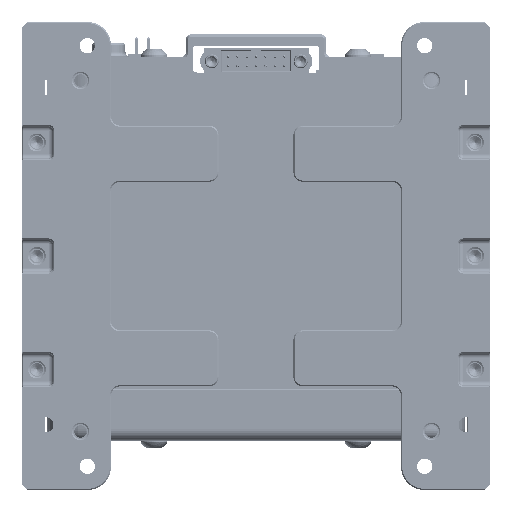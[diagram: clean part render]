
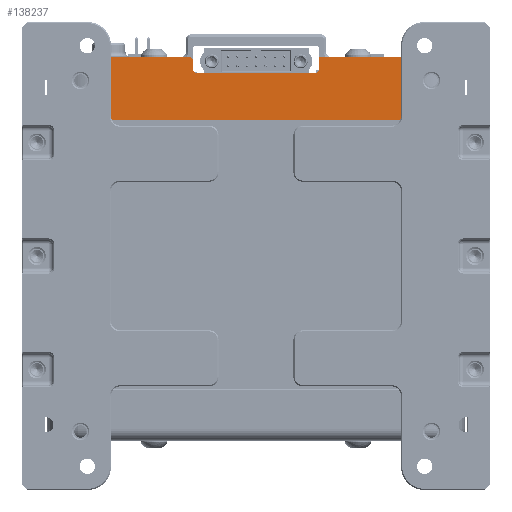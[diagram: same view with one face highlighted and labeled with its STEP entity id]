
A CAD part, left-side view. The second image highlights one B-rep face of the part: STEP entity #138237.
In plain terms, the highlighted planar face has unit normal (-1, 0, 0).
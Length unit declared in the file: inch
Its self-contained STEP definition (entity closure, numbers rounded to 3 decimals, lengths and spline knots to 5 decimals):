
#1435 = ORIENTED_EDGE ( 'NONE', *, *, #57031, .F. ) ;
#1799 = LINE ( 'NONE', #110486, #149921 ) ;
#3117 = VERTEX_POINT ( 'NONE', #187679 ) ;
#3760 = EDGE_CURVE ( 'NONE', #15944, #151910, #39305, .T. ) ;
#3820 = CARTESIAN_POINT ( 'NONE',  ( -0.86417, 1.4188, 1.68991 ) ) ;
#10907 = LINE ( 'NONE', #122432, #50816 ) ;
#11165 = VECTOR ( 'NONE', #128961, 39.37008 ) ;
#11393 = CARTESIAN_POINT ( 'NONE',  ( -0.86417, -0.59055, 1.60086 ) ) ;
#11572 = LINE ( 'NONE', #38029, #91338 ) ;
#11696 = ORIENTED_EDGE ( 'NONE', *, *, #54139, .F. ) ;
#12096 = CARTESIAN_POINT ( 'NONE',  ( -0.86417, -1.36417, 1.04062 ) ) ;
#12676 = ORIENTED_EDGE ( 'NONE', *, *, #3760, .F. ) ;
#15919 = VERTEX_POINT ( 'NONE', #67657 ) ;
#15944 = VERTEX_POINT ( 'NONE', #113687 ) ;
#17330 = DIRECTION ( 'NONE',  ( 0., 0., -1. ) ) ;
#18743 = LINE ( 'NONE', #155951, #98527 ) ;
#18765 = VERTEX_POINT ( 'NONE', #127712 ) ;
#18864 = DIRECTION ( 'NONE',  ( 0., 1., 0. ) ) ;
#19889 = DIRECTION ( 'NONE',  ( 0., 0.707, 0.707 ) ) ;
#19892 = VERTEX_POINT ( 'NONE', #71465 ) ;
#21086 = VECTOR ( 'NONE', #56315, 39.37008 ) ;
#35157 = DIRECTION ( 'NONE',  ( 1., 0., 0. ) ) ;
#35309 = ORIENTED_EDGE ( 'NONE', *, *, #193207, .F. ) ;
#38029 = CARTESIAN_POINT ( 'NONE',  ( -0.86417, 1.75787, 1.06818 ) ) ;
#39305 = CIRCLE ( 'NONE', #77989, 0.17717 ) ;
#39781 = ORIENTED_EDGE ( 'NONE', *, *, #84748, .F. ) ;
#44016 = VECTOR ( 'NONE', #117121, 39.37008 ) ;
#47919 = ORIENTED_EDGE ( 'NONE', *, *, #48281, .T. ) ;
#48281 = EDGE_CURVE ( 'NONE', #167721, #3117, #139476, .T. ) ;
#50538 = CARTESIAN_POINT ( 'NONE',  ( -0.86417, 1.35886, 1.06818 ) ) ;
#50816 = VECTOR ( 'NONE', #17330, 39.37008 ) ;
#54139 = EDGE_CURVE ( 'NONE', #18765, #186799, #165633, .T. ) ;
#56315 = DIRECTION ( 'NONE',  ( 0., -1., 0. ) ) ;
#57031 = EDGE_CURVE ( 'NONE', #15919, #75564, #11572, .T. ) ;
#57960 = AXIS2_PLACEMENT_3D ( 'NONE', #65482, #170473, #80601 ) ;
#60575 = VECTOR ( 'NONE', #147238, 39.37008 ) ;
#61075 = EDGE_CURVE ( 'NONE', #137878, #151910, #128658, .T. ) ;
#63335 = EDGE_CURVE ( 'NONE', #19892, #186799, #103930, .T. ) ;
#65482 = CARTESIAN_POINT ( 'NONE',  ( -0.86417, 0.49213, 1.50125 ) ) ;
#67657 = CARTESIAN_POINT ( 'NONE',  ( -0.86417, -1.35886, 1.06818 ) ) ;
#69654 = CARTESIAN_POINT ( 'NONE',  ( -0.86417, 1.26564, 1.60086 ) ) ;
#69745 = VECTOR ( 'NONE', #131518, 39.37008 ) ;
#69993 = CARTESIAN_POINT ( 'NONE',  ( -0.86417, -1.36417, 1.06818 ) ) ;
#71465 = CARTESIAN_POINT ( 'NONE',  ( -0.86417, 0.49213, 1.46188 ) ) ;
#72869 = CARTESIAN_POINT ( 'NONE',  ( -0.86417, -1.4188, 1.68991 ) ) ;
#75564 = VERTEX_POINT ( 'NONE', #50538 ) ;
#75762 = ORIENTED_EDGE ( 'NONE', *, *, #111190, .T. ) ;
#76902 = ORIENTED_EDGE ( 'NONE', *, *, #61075, .T. ) ;
#77427 = DIRECTION ( 'NONE',  ( 1., 0., 0. ) ) ;
#77989 = AXIS2_PLACEMENT_3D ( 'NONE', #72869, #177905, #88053 ) ;
#80601 = DIRECTION ( 'NONE',  ( 0., -1., 0. ) ) ;
#83803 = CARTESIAN_POINT ( 'NONE',  ( -0.86417, -0.5315, 1.60086 ) ) ;
#84748 = EDGE_CURVE ( 'NONE', #104149, #15944, #109752, .T. ) ;
#85770 = VECTOR ( 'NONE', #116440, 39.37008 ) ;
#88053 = DIRECTION ( 'NONE',  ( 0., 1., 0. ) ) ;
#88105 = CARTESIAN_POINT ( 'NONE',  ( -0.86417, 1.36417, 1.06818 ) ) ;
#90943 = LINE ( 'NONE', #113828, #11165 ) ;
#91338 = VECTOR ( 'NONE', #143012, 39.37008 ) ;
#91945 = ORIENTED_EDGE ( 'NONE', *, *, #120709, .T. ) ;
#94304 = VERTEX_POINT ( 'NONE', #152799 ) ;
#94855 = AXIS2_PLACEMENT_3D ( 'NONE', #167382, #77427, #182379 ) ;
#96050 = FACE_OUTER_BOUND ( 'NONE', #115368, .T. ) ;
#98286 = CARTESIAN_POINT ( 'NONE',  ( -0.86417, -1.36417, 1.52137 ) ) ;
#98527 = VECTOR ( 'NONE', #186053, 39.37008 ) ;
#101164 = CARTESIAN_POINT ( 'NONE',  ( -0.86417, 0.55118, 1.60086 ) ) ;
#101903 = CARTESIAN_POINT ( 'NONE',  ( -0.86417, 0.5315, 1.60086 ) ) ;
#103930 = CIRCLE ( 'NONE', #57960, 0.03937 ) ;
#104149 = VERTEX_POINT ( 'NONE', #83803 ) ;
#108770 = DIRECTION ( 'NONE',  ( -1., 0., 0. ) ) ;
#109752 = LINE ( 'NONE', #11393, #69745 ) ;
#109814 = VERTEX_POINT ( 'NONE', #101164 ) ;
#110486 = CARTESIAN_POINT ( 'NONE',  ( -0.86417, 0.55118, 1.60086 ) ) ;
#111190 = EDGE_CURVE ( 'NONE', #94304, #142452, #10907, .T. ) ;
#113687 = CARTESIAN_POINT ( 'NONE',  ( -0.86417, -1.26564, 1.60086 ) ) ;
#113828 = CARTESIAN_POINT ( 'NONE',  ( -0.86417, -0.49213, 1.46188 ) ) ;
#114395 = EDGE_CURVE ( 'NONE', #94304, #191842, #132128, .T. ) ;
#115368 = EDGE_LOOP ( 'NONE', ( #11696, #91945, #132055, #116396, #75762, #35309, #1435, #162351, #76902, #12676, #39781, #180267, #47919, #182555, #143166 ) ) ;
#116396 = ORIENTED_EDGE ( 'NONE', *, *, #114395, .F. ) ;
#116440 = DIRECTION ( 'NONE',  ( 0., 0., -1. ) ) ;
#117121 = DIRECTION ( 'NONE',  ( 0., 0., 1. ) ) ;
#119350 = CARTESIAN_POINT ( 'NONE',  ( -0.86417, -0.5315, 1.50125 ) ) ;
#120709 = EDGE_CURVE ( 'NONE', #18765, #109814, #1799, .T. ) ;
#122332 = VECTOR ( 'NONE', #165836, 39.37008 ) ;
#122432 = CARTESIAN_POINT ( 'NONE',  ( -0.86417, 1.36417, 1.04062 ) ) ;
#124126 = EDGE_CURVE ( 'NONE', #191842, #109814, #190082, .T. ) ;
#124484 = PLANE ( 'NONE',  #160414 ) ;
#125154 = CARTESIAN_POINT ( 'NONE',  ( -0.86417, -1.75787, 1.04062 ) ) ;
#127712 = CARTESIAN_POINT ( 'NONE',  ( -0.86417, 0.5315, 1.58117 ) ) ;
#128658 = LINE ( 'NONE', #12096, #44016 ) ;
#128961 = DIRECTION ( 'NONE',  ( 0., -1., 0. ) ) ;
#131289 = CARTESIAN_POINT ( 'NONE',  ( -0.86417, 0.59055, 1.60086 ) ) ;
#131518 = DIRECTION ( 'NONE',  ( 0., -1., 0. ) ) ;
#131587 = AXIS2_PLACEMENT_3D ( 'NONE', #3820, #108770, #18864 ) ;
#132055 = ORIENTED_EDGE ( 'NONE', *, *, #124126, .F. ) ;
#132128 = CIRCLE ( 'NONE', #131587, 0.17717 ) ;
#132276 = CARTESIAN_POINT ( 'NONE',  ( -0.86417, 1.75787, 1.06818 ) ) ;
#137878 = VERTEX_POINT ( 'NONE', #69993 ) ;
#138237 = ADVANCED_FACE ( 'NONE', ( #96050 ), #124484, .F. ) ;
#139476 = CIRCLE ( 'NONE', #94855, 0.03937 ) ;
#140124 = DIRECTION ( 'NONE',  ( 0., -1., 0. ) ) ;
#142452 = VERTEX_POINT ( 'NONE', #88105 ) ;
#143012 = DIRECTION ( 'NONE',  ( 0., 1., 0. ) ) ;
#143166 = ORIENTED_EDGE ( 'NONE', *, *, #63335, .T. ) ;
#147238 = DIRECTION ( 'NONE',  ( 0., 1., 0. ) ) ;
#149921 = VECTOR ( 'NONE', #19889, 39.37008 ) ;
#150689 = CARTESIAN_POINT ( 'NONE',  ( -0.86417, 1.75787, 1.06818 ) ) ;
#151910 = VERTEX_POINT ( 'NONE', #98286 ) ;
#152799 = CARTESIAN_POINT ( 'NONE',  ( -0.86417, 1.36417, 1.52137 ) ) ;
#155951 = CARTESIAN_POINT ( 'NONE',  ( -0.86417, -0.5315, 1.60086 ) ) ;
#156876 = CARTESIAN_POINT ( 'NONE',  ( -0.86417, 0.5315, 1.50125 ) ) ;
#160414 = AXIS2_PLACEMENT_3D ( 'NONE', #125154, #35157, #140124 ) ;
#162176 = LINE ( 'NONE', #150689, #122332 ) ;
#162351 = ORIENTED_EDGE ( 'NONE', *, *, #175000, .F. ) ;
#165633 = LINE ( 'NONE', #101903, #85770 ) ;
#165836 = DIRECTION ( 'NONE',  ( 0., 1., 0. ) ) ;
#167382 = CARTESIAN_POINT ( 'NONE',  ( -0.86417, -0.49213, 1.50125 ) ) ;
#167721 = VERTEX_POINT ( 'NONE', #119350 ) ;
#170473 = DIRECTION ( 'NONE',  ( 1., 0., 0. ) ) ;
#175000 = EDGE_CURVE ( 'NONE', #137878, #15919, #162176, .T. ) ;
#177905 = DIRECTION ( 'NONE',  ( -1., 0., 0. ) ) ;
#180267 = ORIENTED_EDGE ( 'NONE', *, *, #183536, .F. ) ;
#180343 = LINE ( 'NONE', #132276, #60575 ) ;
#182379 = DIRECTION ( 'NONE',  ( 0., -1., 0. ) ) ;
#182555 = ORIENTED_EDGE ( 'NONE', *, *, #186406, .F. ) ;
#183536 = EDGE_CURVE ( 'NONE', #167721, #104149, #18743, .T. ) ;
#186053 = DIRECTION ( 'NONE',  ( 0., 0., 1. ) ) ;
#186406 = EDGE_CURVE ( 'NONE', #19892, #3117, #90943, .T. ) ;
#186799 = VERTEX_POINT ( 'NONE', #156876 ) ;
#187679 = CARTESIAN_POINT ( 'NONE',  ( -0.86417, -0.49213, 1.46188 ) ) ;
#190082 = LINE ( 'NONE', #131289, #21086 ) ;
#191842 = VERTEX_POINT ( 'NONE', #69654 ) ;
#193207 = EDGE_CURVE ( 'NONE', #75564, #142452, #180343, .T. ) ;
